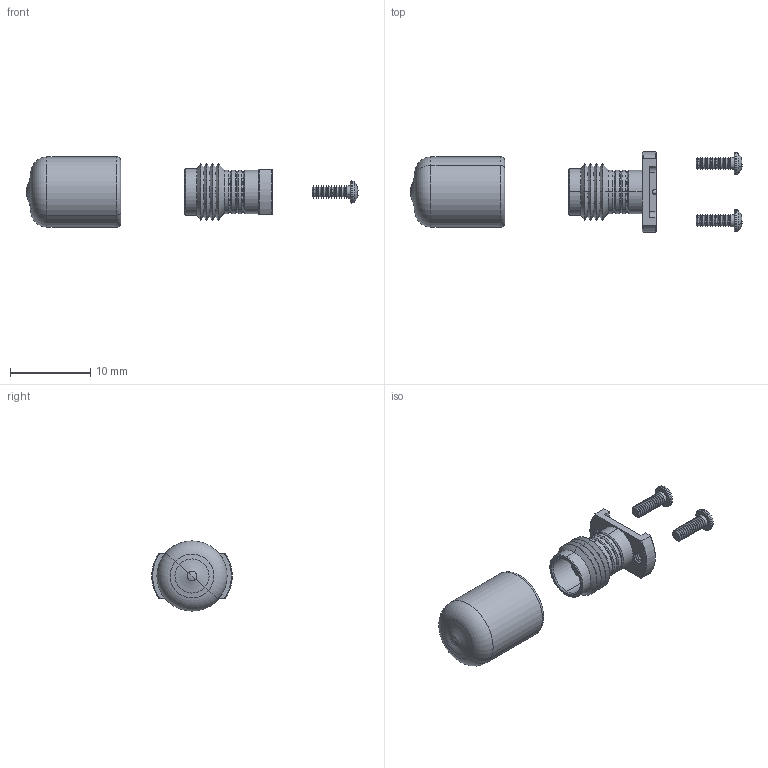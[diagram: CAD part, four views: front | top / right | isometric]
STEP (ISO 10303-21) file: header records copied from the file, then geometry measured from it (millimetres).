
FILE_DESCRIPTION (( 'STEP AP203' ), '1' );
FILE_NAME ('59-2X025-44050C.STEP', '2020-02-04T02:00:01', ( '' ), ( '' ), 'SwSTEP 2.0', 'SolidWorks 2016', '' );
FILE_SCHEMA (( 'CONFIG_CONTROL_DESIGN' ));
Length unit declared in the file: millimetre
Products named in the file (15): 103-1840-226050B; 102-1130-700000C; 59-2X025-44050C; 101-2729-440050C; 110-0007-440000A; 108-0059-900000B; 101-2545-440000B; 59-20025-44051C
Assembly tree (8 placements, depth 3):
  102-1130-700000C
  59-2X025-44050C
    59-20025-44051C
      101-2729-440050C
      101-2545-440000B
      103-1840-226050B
      102-1130-700000C
      108-0059-900000B
    110-0007-440000A  x2
  103-1840-226050B
  110-0007-440000A
  110-0007-440000A
Bounding box: 41.37 x 9.97 x 8.75 mm (x, y, z)
Volume: 564 mm3; surface area: 1337 mm2
Topology: 7 solids, 7 shells, 427 faces, 951 edges, 548 vertices
Faces by surface type: cone 246, cylinder 72, plane 65, torus 34, sphere 10
Entity records: 11010 total; most frequent: CARTESIAN_POINT 1882, DIRECTION 1800, ORIENTED_EDGE 1528, EDGE_CURVE 764, AXIS2_PLACEMENT_3D 758, VERTEX_POINT 444, CIRCLE 402, EDGE_LOOP 362
